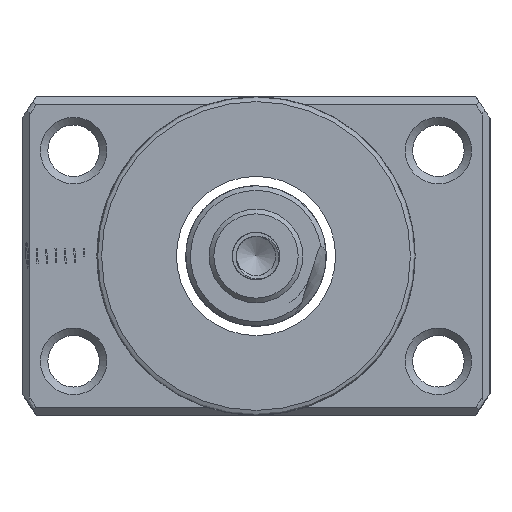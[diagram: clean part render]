
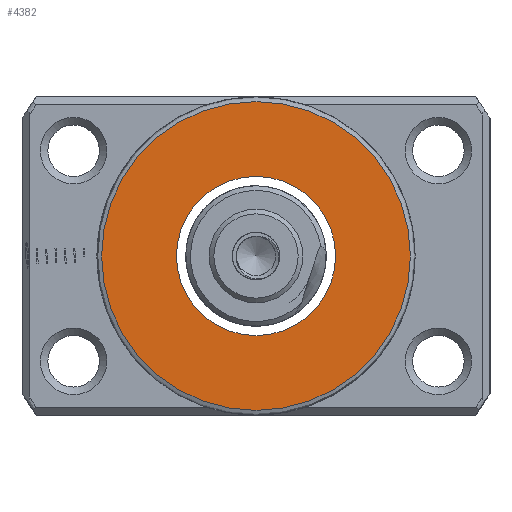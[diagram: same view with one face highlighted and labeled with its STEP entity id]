
A CAD part, left-side view. The second image highlights one B-rep face of the part: STEP entity #4382.
In plain terms, the highlighted planar face has unit normal (-1, 0, 0).
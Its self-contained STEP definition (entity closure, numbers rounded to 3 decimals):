
#376 = CARTESIAN_POINT ( 'NONE',  ( -53.324, 0., 16.5 ) ) ;
#1780 = DIRECTION ( 'NONE',  ( 0., 0., 1. ) ) ;
#1889 = EDGE_LOOP ( 'NONE', ( #5812 ) ) ;
#2458 = ORIENTED_EDGE ( 'NONE', *, *, #12743, .T. ) ;
#3017 = FACE_OUTER_BOUND ( 'NONE', #14262, .T. ) ;
#3885 = EDGE_CURVE ( 'NONE', #14197, #14197, #16296, .T. ) ;
#4146 = AXIS2_PLACEMENT_3D ( 'NONE', #10399, #5347, #1780 ) ;
#4382 = ADVANCED_FACE ( 'NONE', ( #3017, #13124 ), #13049, .T. ) ;
#4410 = DIRECTION ( 'NONE',  ( -1., 0., 0. ) ) ;
#4995 = DIRECTION ( 'NONE',  ( 0., 0., 1. ) ) ;
#5341 = CARTESIAN_POINT ( 'NONE',  ( -53.324, 0., 8.5 ) ) ;
#5347 = DIRECTION ( 'NONE',  ( -1., 0., 0. ) ) ;
#5812 = ORIENTED_EDGE ( 'NONE', *, *, #3885, .F. ) ;
#7474 = CARTESIAN_POINT ( 'NONE',  ( -53.324, 0., 0. ) ) ;
#8281 = CIRCLE ( 'NONE', #13076, 16.5 ) ;
#9155 = AXIS2_PLACEMENT_3D ( 'NONE', #7474, #13778, #4995 ) ;
#9467 = DIRECTION ( 'NONE',  ( 0., 0., 1. ) ) ;
#10399 = CARTESIAN_POINT ( 'NONE',  ( -53.324, 8.5, 0. ) ) ;
#10789 = CARTESIAN_POINT ( 'NONE',  ( -53.324, 0., 0. ) ) ;
#12743 = EDGE_CURVE ( 'NONE', #12877, #12877, #8281, .T. ) ;
#12877 = VERTEX_POINT ( 'NONE', #376 ) ;
#13049 = PLANE ( 'NONE',  #4146 ) ;
#13076 = AXIS2_PLACEMENT_3D ( 'NONE', #10789, #4410, #9467 ) ;
#13124 = FACE_BOUND ( 'NONE', #1889, .T. ) ;
#13778 = DIRECTION ( 'NONE',  ( -1., 0., 0. ) ) ;
#14197 = VERTEX_POINT ( 'NONE', #5341 ) ;
#14262 = EDGE_LOOP ( 'NONE', ( #2458 ) ) ;
#16296 = CIRCLE ( 'NONE', #9155, 8.5 ) ;
